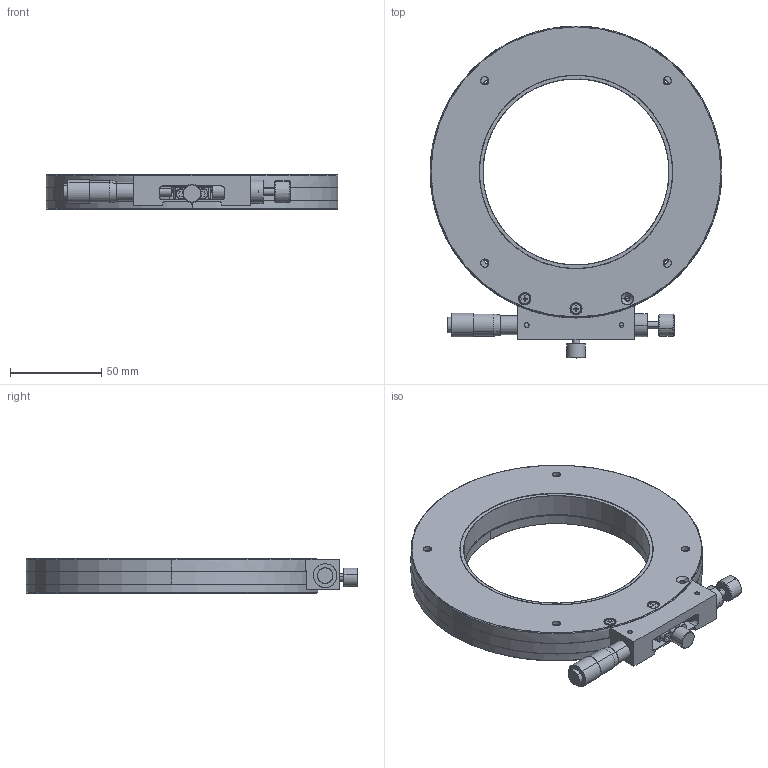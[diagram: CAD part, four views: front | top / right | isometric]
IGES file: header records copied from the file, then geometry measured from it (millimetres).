
Start section: SolidWorks IGES file using analytic representation for surfaces
Global section: file name: 3HC:\Users\dubin\Desktop\0507\PT-SR160（根据三维和样本所画）\PT-SR160反手（1）\PT-SR160反手.IGS; native system: SolidWorks 2017; preprocessor: SolidWorks 2017; author: PDV; date: 230507.165635; units: millimetre
Bounding box: 160 x 182 x 19 mm (x, y, z)
Surface area: 108106.5 mm2 (no closed solid volume)
Topology: 0 solids, 0 shells, 777 faces, 12705 edges, 12672 vertices
Faces by surface type: bspline 434, revolution 343
